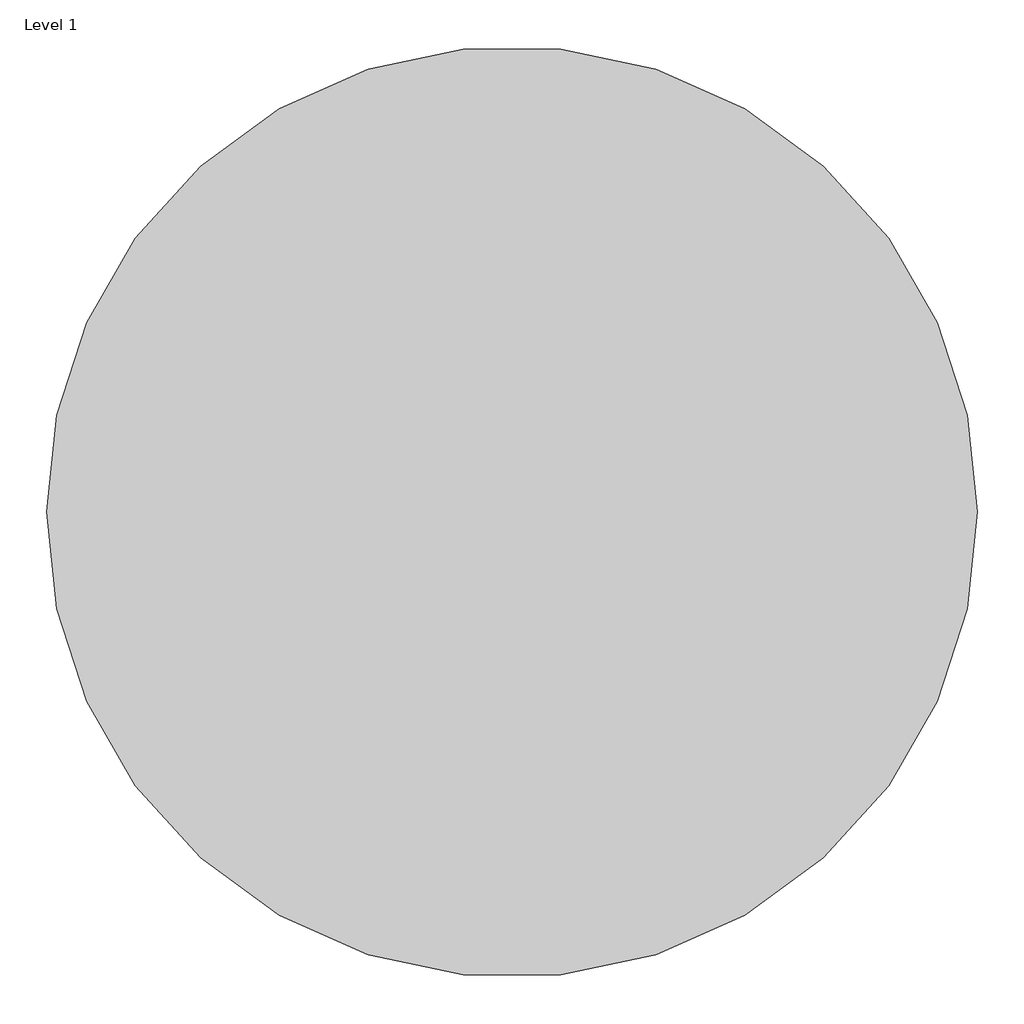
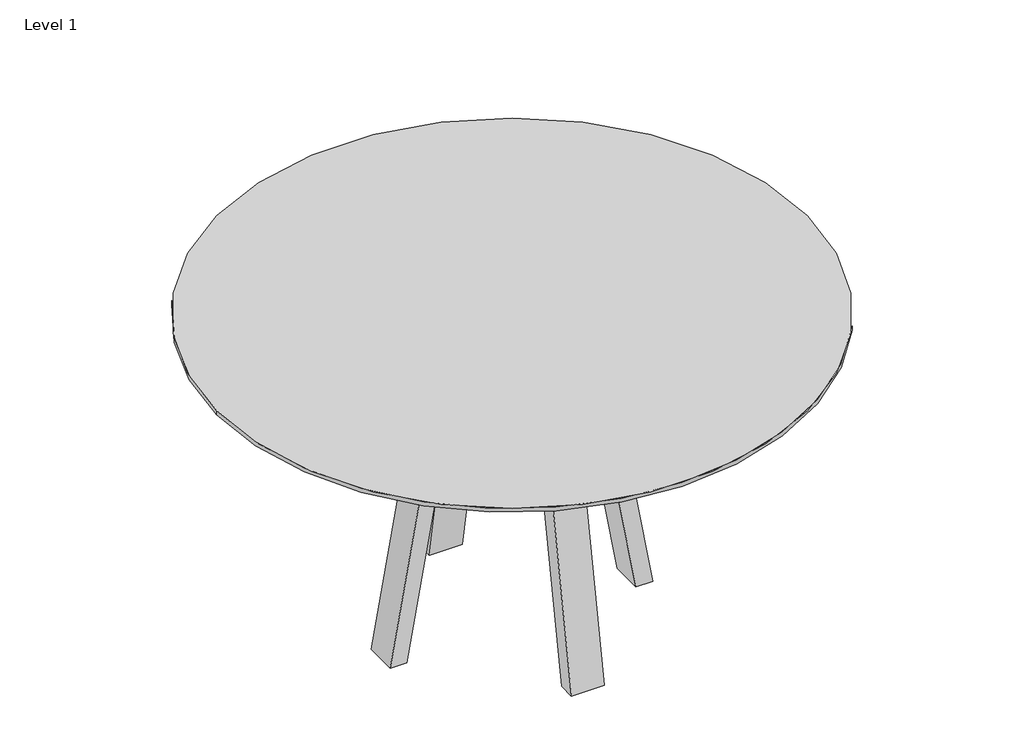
# One storey: 11 proxies.
"""IFC4 building model written with IfcOpenShell, lengths in millimetres."""

from ifc_helpers import new_model, si_unit, origin, place, context, project, spatial, transform, mapped, element, save
from components import generic_models_93175ff0, generic_models_21e08ec8, generic_models_5dfb7dac, generic_models_32f886f8, generic_models_183aa09b, generic_models_21132f95, generic_models_8032d86a, generic_models_f53bcc3d, generic_models_cd42bd1e, generic_models_c88e18ce, generic_models_69e4ea64

model = new_model("IFC4")

# Units and contexts
model_context = context("Model", 3, world=origin())
ifc_project = project(units=[si_unit("LENGTHUNIT", "METRE", prefix="MILLI")], contexts=[model_context])

# Site, building, storey
site = spatial("IfcSite", under=ifc_project)
building = spatial("IfcBuilding", under=site)
storey = spatial("IfcBuildingStorey", under=building, Name="Level 1", Elevation=0.0)

# Proxies
placement = place(None, origin())
generic_models_shape = generic_models_93175ff0(model_context)
element("IfcBuildingElementProxy", 1, Name="GRADIENT^TABLE 1_OCTAGON LEGS-WORKSURFACE", ObjectType="GRADIENT^TABLE 1_OCTAGON LEGS-WORKSURFACE", at=placement, inside=storey, context=model_context, shape_type="MappedRepresentation", body=[
    mapped(generic_models_shape, transform((0.0, 0.0, 0.0), x_axis=(1.0, 0.0, 0.0), y_axis=(0.0, 0.0, 1.0), z_axis=(0.0, -1.0, 0.0))),
])
generic_models_2_shape = generic_models_21e08ec8(model_context)
element("IfcBuildingElementProxy", 2, Name="GRADIENT^TABLE 1_OCTAGON LEGS-APRON 3", ObjectType="GRADIENT^TABLE 1_OCTAGON LEGS-APRON 3", at=placement, inside=storey, context=model_context, shape_type="MappedRepresentation", body=[
    mapped(generic_models_2_shape, transform((0.0, 0.0, 0.0), x_axis=(1.0, 0.0, 0.0), y_axis=(0.0, 0.0, 1.0), z_axis=(0.0, -1.0, 0.0))),
])
generic_models_3_shape = generic_models_5dfb7dac(model_context)
element("IfcBuildingElementProxy", 3, Name="GRADIENT^TABLE 1_OCTAGON LEGS-LEG 4", ObjectType="GRADIENT^TABLE 1_OCTAGON LEGS-LEG 4", at=placement, inside=storey, context=model_context, shape_type="MappedRepresentation", body=[
    mapped(generic_models_3_shape, transform((0.0, 0.0, 0.0), x_axis=(1.0, 0.0, 0.0), y_axis=(0.0, 0.0, 1.0), z_axis=(0.0, -1.0, 0.0))),
])
generic_models_4_shape = generic_models_32f886f8(model_context)
element("IfcBuildingElementProxy", 4, Name="GRADIENT^TABLE 1_OCTAGON LEGS-METAL BRACKET", ObjectType="GRADIENT^TABLE 1_OCTAGON LEGS-METAL BRACKET", at=placement, inside=storey, context=model_context, shape_type="MappedRepresentation", body=[
    mapped(generic_models_4_shape, transform((0.0, 0.0, 0.0), x_axis=(1.0, 0.0, 0.0), y_axis=(0.0, 0.0, 1.0), z_axis=(0.0, -1.0, 0.0))),
])
generic_models_5_shape = generic_models_183aa09b(model_context)
element("IfcBuildingElementProxy", 5, Name="GRADIENT^TABLE 1_OCTAGON LEGS-APRON 4", ObjectType="GRADIENT^TABLE 1_OCTAGON LEGS-APRON 4", at=placement, inside=storey, context=model_context, shape_type="MappedRepresentation", body=[
    mapped(generic_models_5_shape, transform((0.0, 0.0, 0.0), x_axis=(1.0, 0.0, 0.0), y_axis=(0.0, 0.0, 1.0), z_axis=(0.0, -1.0, 0.0))),
])
generic_models_6_shape = generic_models_21132f95(model_context)
element("IfcBuildingElementProxy", 6, Name="GRADIENT^TABLE 1_OCTAGON LEGS-LEG 2", ObjectType="GRADIENT^TABLE 1_OCTAGON LEGS-LEG 2", at=placement, inside=storey, context=model_context, shape_type="MappedRepresentation", body=[
    mapped(generic_models_6_shape, transform((0.0, 0.0, 0.0), x_axis=(1.0, 0.0, 0.0), y_axis=(0.0, 0.0, 1.0), z_axis=(0.0, -1.0, 0.0))),
])
generic_models_7_shape = generic_models_8032d86a(model_context)
element("IfcBuildingElementProxy", 7, Name="GRADIENT^TABLE 1_OCTAGON LEGS-SUB TOP", ObjectType="GRADIENT^TABLE 1_OCTAGON LEGS-SUB TOP", at=placement, inside=storey, context=model_context, shape_type="MappedRepresentation", body=[
    mapped(generic_models_7_shape, transform((0.0, 0.0, 0.0), x_axis=(1.0, 0.0, 0.0), y_axis=(0.0, 0.0, 1.0), z_axis=(0.0, -1.0, 0.0))),
])
generic_models_8_shape = generic_models_f53bcc3d(model_context)
element("IfcBuildingElementProxy", 8, Name="GRADIENT^TABLE 1_OCTAGON LEGS-APRON 2", ObjectType="GRADIENT^TABLE 1_OCTAGON LEGS-APRON 2", at=placement, inside=storey, context=model_context, shape_type="MappedRepresentation", body=[
    mapped(generic_models_8_shape, transform((0.0, 0.0, 0.0), x_axis=(1.0, 0.0, 0.0), y_axis=(0.0, 0.0, 1.0), z_axis=(0.0, -1.0, 0.0))),
])
generic_models_9_shape = generic_models_cd42bd1e(model_context)
element("IfcBuildingElementProxy", 9, Name="GRADIENT^TABLE 1_OCTAGON LEGS-APRON 1", ObjectType="GRADIENT^TABLE 1_OCTAGON LEGS-APRON 1", at=placement, inside=storey, context=model_context, shape_type="MappedRepresentation", body=[
    mapped(generic_models_9_shape, transform((0.0, 0.0, 0.0), x_axis=(1.0, 0.0, 0.0), y_axis=(0.0, 0.0, 1.0), z_axis=(0.0, -1.0, 0.0))),
])
generic_models_10_shape = generic_models_c88e18ce(model_context)
element("IfcBuildingElementProxy", 10, Name="GRADIENT^TABLE 1_OCTAGON LEGS-LEG 1", ObjectType="GRADIENT^TABLE 1_OCTAGON LEGS-LEG 1", at=placement, inside=storey, context=model_context, shape_type="MappedRepresentation", body=[
    mapped(generic_models_10_shape, transform((0.0, 0.0, 0.0), x_axis=(1.0, 0.0, 0.0), y_axis=(0.0, 0.0, 1.0), z_axis=(0.0, -1.0, 0.0))),
])
generic_models_11_shape = generic_models_69e4ea64(model_context)
element("IfcBuildingElementProxy", 11, Name="GRADIENT^TABLE 1_OCTAGON LEGS-LEG 3", ObjectType="GRADIENT^TABLE 1_OCTAGON LEGS-LEG 3", at=placement, inside=storey, context=model_context, shape_type="MappedRepresentation", body=[
    mapped(generic_models_11_shape, transform((0.0, 0.0, 0.0), x_axis=(1.0, 0.0, 0.0), y_axis=(0.0, 0.0, 1.0), z_axis=(0.0, -1.0, 0.0))),
])

save(model, "model.ifc")
